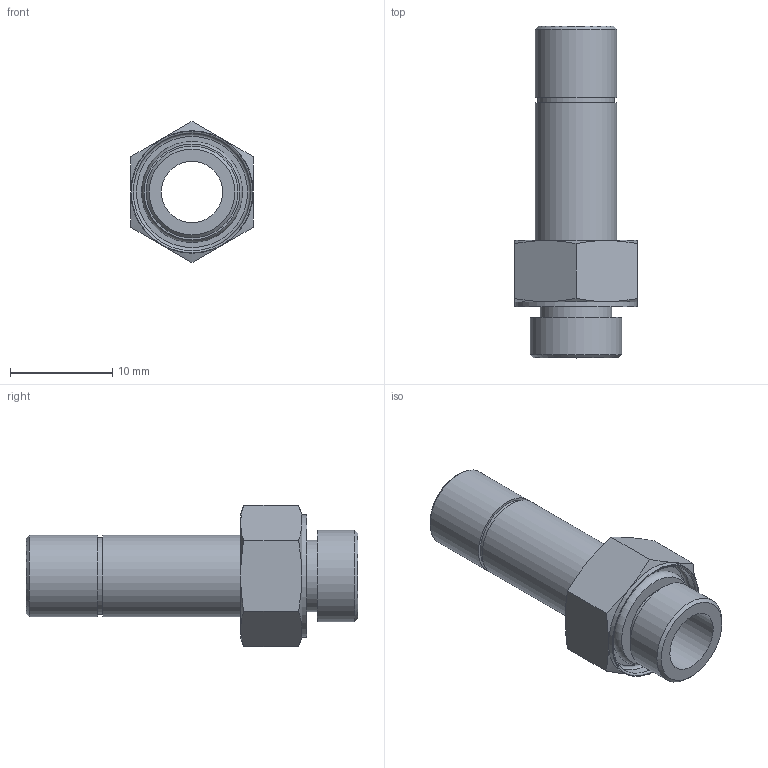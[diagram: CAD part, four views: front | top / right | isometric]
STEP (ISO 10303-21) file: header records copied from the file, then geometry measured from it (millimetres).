
FILE_DESCRIPTION(/* description */ (''),/* implementation_level */ '2;1');
FILE_NAME(/* name */ 'LXH16 0008 B1.stp',/* time_stamp */ '2026-04-29T15:16:49+02:00',/* author */ ('freju'),/* organization */ (''),/* preprocessor_version */ 'ST-DEVELOPER v20.1',/* originating_system */ 'Autodesk Inventor 2026',/* authorisation */ '');
FILE_SCHEMA (('AUTOMOTIVE_DESIGN { 1 0 10303 214 3 1 1 }'));
Length unit declared in the file: millimetre
Products named in the file (4): LXH15 0008 B1; LXH16 0008 B1; O-Ring; ISO 3601-1 - A 0063 G
Assembly tree (3 placements, depth 3):
  LXH15 0008 B1
    LXH16 0008 B1
    O-Ring
      ISO 3601-1 - A 0063 G
Bounding box: 12 x 32.5 x 13.86 mm (x, y, z)
Volume: 1187.6 mm3; surface area: 1997.8 mm2
Topology: 3 solids, 3 shells, 47 faces, 95 edges, 59 vertices
Faces by surface type: plane 17, cone 14, cylinder 10, torus 6
Full cylindrical faces by diameter (mm): 6 x2, 6.3 x1, 7 x1, 7.5 x1, 8 x2, 9 x1, 11.5 x1, 12 x1
Entity records: 1367 total; most frequent: CARTESIAN_POINT 256, DIRECTION 232, ORIENTED_EDGE 190, AXIS2_PLACEMENT_3D 107, EDGE_CURVE 95, VERTEX_POINT 59, EDGE_LOOP 58, CIRCLE 53
